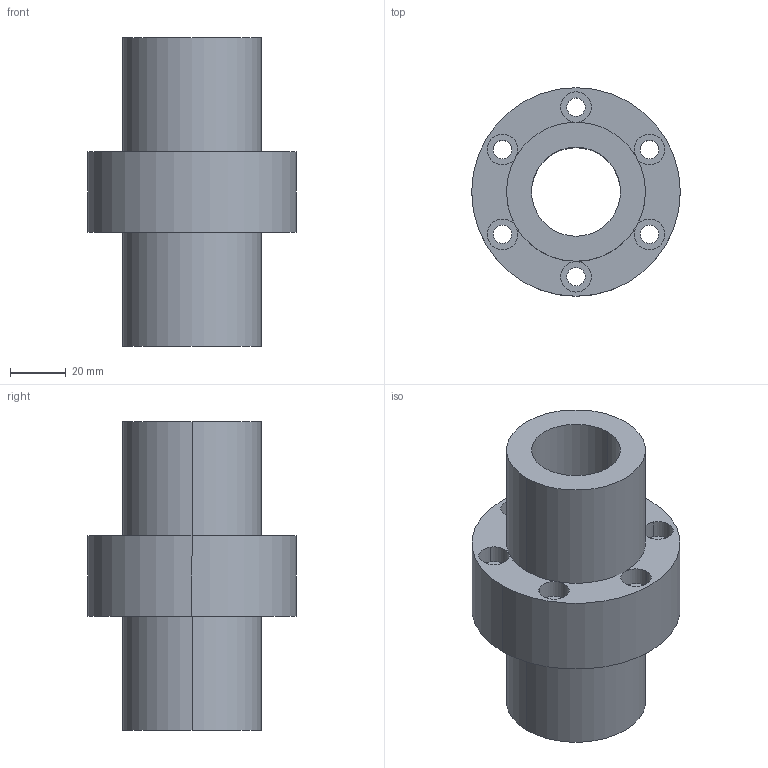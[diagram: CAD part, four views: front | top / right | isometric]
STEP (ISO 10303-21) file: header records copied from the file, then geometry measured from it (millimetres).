
FILE_DESCRIPTION((''),'2;1');
FILE_NAME('32-6T3','2008-04-03T',('yanyu'),(''),'PRO/ENGINEER BY PARAMETRIC TECHNOLOGY CORPORATION, 2005070','PRO/ENGINEER BY PARAMETRIC TECHNOLOGY CORPORATION, 2005070','');
FILE_SCHEMA(('CONFIG_CONTROL_DESIGN'));
Length unit declared in the file: millimetre
Products named in the file (1): 32-6T3
Bounding box: 75 x 75 x 111 mm (x, y, z)
Volume: 191528.3 mm3; surface area: 41836 mm2
Topology: 1 solids, 1 shells, 42 faces, 112 edges, 74 vertices
Faces by surface type: cylinder 32, plane 10
Entity records: 1426 total; most frequent: DIRECTION 276, CARTESIAN_POINT 228, ORIENTED_EDGE 224, AXIS2_PLACEMENT_3D 122, EDGE_CURVE 112, CIRCLE 80, VERTEX_POINT 74, EDGE_LOOP 58
